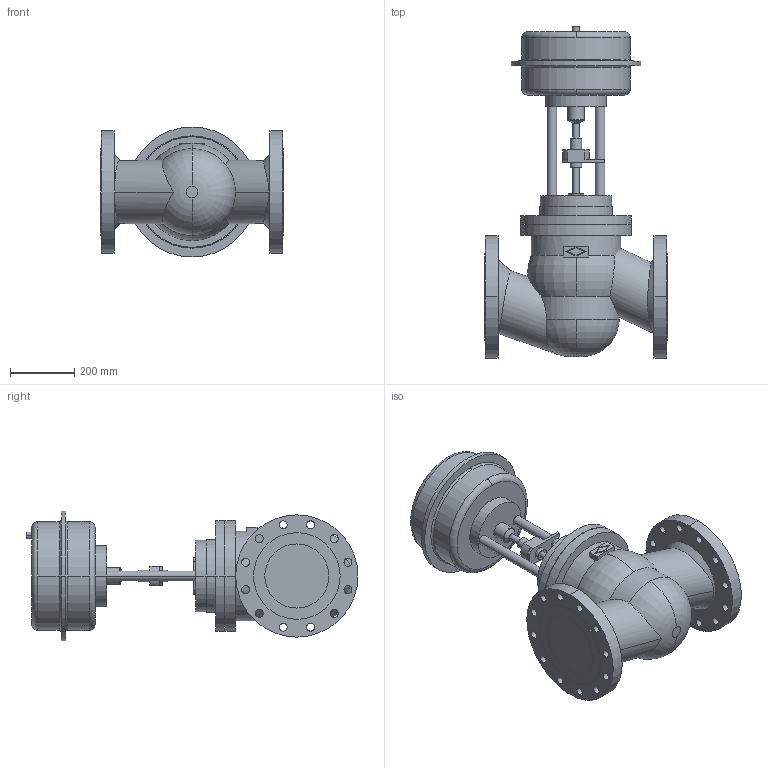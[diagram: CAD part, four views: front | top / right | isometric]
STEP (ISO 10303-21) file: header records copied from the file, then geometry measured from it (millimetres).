
FILE_DESCRIPTION( ( '' ), '1' );
FILE_NAME( 'F:/DE-SHS/TB/OR/04-Sonstiges/daten/files_3d/470-471_ANSI/c000005810.stp', '2015-10-05T10:23:23', ( '' ), ( '' ), ' ', ' ', ' ' );
FILE_SCHEMA( ( 'CONFIG_CONTROL_DESIGN' ) );
Length unit declared in the file: millimetre
Products named in the file (2): 1; 2
Bounding box: 568 x 1034.5 x 405 mm (x, y, z)
Volume: 65671663.6 mm3; surface area: 1850993.6 mm2
Topology: 2 solids, 2 shells, 195 faces, 495 edges, 329 vertices
Faces by surface type: cylinder 112, plane 62, torus 15, cone 6
Entity records: 6739 total; most frequent: CARTESIAN_POINT 1591, DIRECTION 1147, ORIENTED_EDGE 990, EDGE_CURVE 495, AXIS2_PLACEMENT_3D 473, VERTEX_POINT 329, CIRCLE 276, EDGE_LOOP 268
